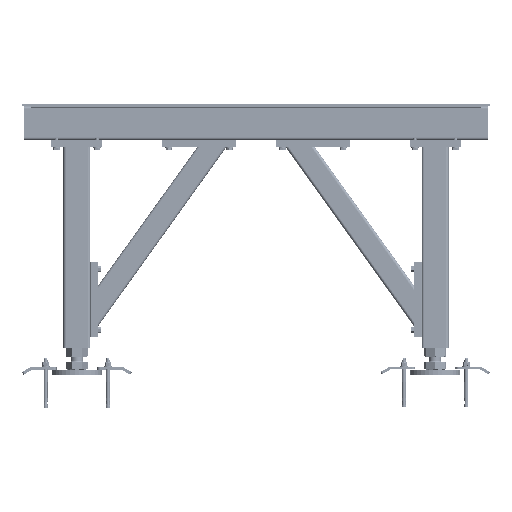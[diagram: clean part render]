
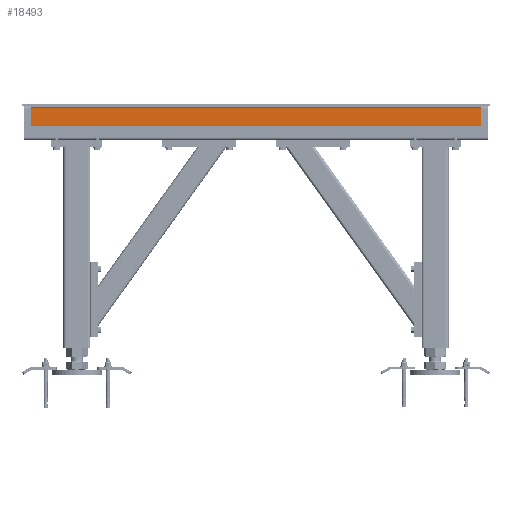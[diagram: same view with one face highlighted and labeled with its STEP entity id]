
A CAD part, front view. The second image highlights one B-rep face of the part: STEP entity #18493.
In plain terms, the highlighted planar face has unit normal (0, -1, 0).
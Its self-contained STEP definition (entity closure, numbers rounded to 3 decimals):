
#985 = LINE ( 'NONE', #35621, #10520 ) ;
#1658 = LINE ( 'NONE', #20499, #16484 ) ;
#1727 = VERTEX_POINT ( 'NONE', #23285 ) ;
#1845 = DIRECTION ( 'NONE',  ( 0., 0., 1. ) ) ;
#5494 = EDGE_CURVE ( 'NONE', #13205, #1727, #35318, .T. ) ;
#7111 = CARTESIAN_POINT ( 'NONE',  ( -136238.872, 28137.616, 44. ) ) ;
#7444 = CARTESIAN_POINT ( 'NONE',  ( -136238.872, 28137.616, 44. ) ) ;
#8287 = DIRECTION ( 'NONE',  ( 1., 0., 0. ) ) ;
#8586 = DIRECTION ( 'NONE',  ( 0., 0., 1. ) ) ;
#10520 = VECTOR ( 'NONE', #17706, 1000. ) ;
#11513 = EDGE_CURVE ( 'NONE', #39738, #1727, #15428, .T. ) ;
#13205 = VERTEX_POINT ( 'NONE', #23983 ) ;
#14416 = ORIENTED_EDGE ( 'NONE', *, *, #19215, .F. ) ;
#14467 = VECTOR ( 'NONE', #8287, 1000. ) ;
#15042 = DIRECTION ( 'NONE',  ( 0., 0., 1. ) ) ;
#15428 = LINE ( 'NONE', #32733, #14467 ) ;
#16484 = VECTOR ( 'NONE', #8586, 1000. ) ;
#17706 = DIRECTION ( 'NONE',  ( 1., 0., 0. ) ) ;
#18493 = ADVANCED_FACE ( 'NONE', ( #32459 ), #35131, .F. ) ;
#19215 = EDGE_CURVE ( 'NONE', #29312, #39738, #1658, .T. ) ;
#20499 = CARTESIAN_POINT ( 'NONE',  ( -136238.872, 28137.616, 44. ) ) ;
#20553 = ORIENTED_EDGE ( 'NONE', *, *, #5494, .T. ) ;
#23285 = CARTESIAN_POINT ( 'NONE',  ( -134908.872, 28137.616, 44. ) ) ;
#23983 = CARTESIAN_POINT ( 'NONE',  ( -134908.872, 28137.616, -10. ) ) ;
#24319 = CARTESIAN_POINT ( 'NONE',  ( -134908.872, 28137.616, 44. ) ) ;
#24501 = AXIS2_PLACEMENT_3D ( 'NONE', #7444, #32145, #1845 ) ;
#26159 = VECTOR ( 'NONE', #15042, 1000. ) ;
#28291 = EDGE_LOOP ( 'NONE', ( #20553, #28576, #14416, #35175 ) ) ;
#28576 = ORIENTED_EDGE ( 'NONE', *, *, #11513, .F. ) ;
#29312 = VERTEX_POINT ( 'NONE', #38603 ) ;
#32145 = DIRECTION ( 'NONE',  ( 0., 1., 0. ) ) ;
#32459 = FACE_OUTER_BOUND ( 'NONE', #28291, .T. ) ;
#32733 = CARTESIAN_POINT ( 'NONE',  ( -136238.872, 28137.616, 44. ) ) ;
#35131 = PLANE ( 'NONE',  #24501 ) ;
#35175 = ORIENTED_EDGE ( 'NONE', *, *, #39444, .T. ) ;
#35318 = LINE ( 'NONE', #24319, #26159 ) ;
#35621 = CARTESIAN_POINT ( 'NONE',  ( -136238.872, 28137.616, -10. ) ) ;
#38603 = CARTESIAN_POINT ( 'NONE',  ( -136238.872, 28137.616, -10. ) ) ;
#39444 = EDGE_CURVE ( 'NONE', #29312, #13205, #985, .T. ) ;
#39738 = VERTEX_POINT ( 'NONE', #7111 ) ;
